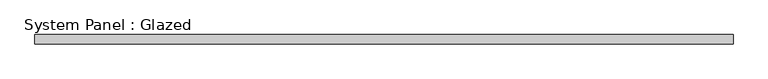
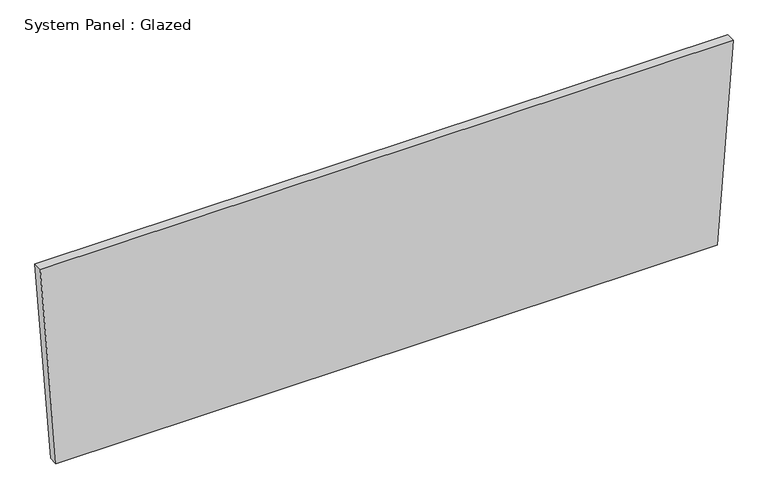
"""IFC4 building model written with IfcOpenShell, lengths in millimetres: plate geometry, System Panel : Glazed."""

from ifc_helpers import new_model, si_unit, frame, origin, place, context, project, spatial, polyline, outline, extrude, source, transform, mapped, element, save


def system_panel_glazed_e73c3b5f(model_context):
    return source(origin(), model_context, "Body", "SweptSolid", [
        extrude(outline(polyline([(0.0, -912.7323068), (0.0, 912.7323068), (582.5097319, 956.201153), (582.5097319, -956.201153), (0.0, -912.7323068)])), frame((0.0, -44.45, 0.0), z_axis=(0.0, 1.0, 0.0), x_axis=(0.0, 0.0, 1.0)), (0.0, 0.0, 1.0), 25.4),
    ])


if __name__ == "__main__":
    model = new_model("IFC4")
    model_context = context("Model", 3, world=origin())
    ifc_project = project(units=[si_unit("LENGTHUNIT", "METRE", prefix="MILLI")], contexts=[model_context])
    site = spatial("IfcSite", under=ifc_project)
    building = spatial("IfcBuilding", under=site)
    placement = place(None, origin())
    system_panel_glazed_shape = system_panel_glazed_e73c3b5f(model_context)
    element("IfcPlate", 1, ObjectType="System Panel : Glazed", at=placement, inside=building, context=model_context, shape_type="MappedRepresentation", body=[
        mapped(system_panel_glazed_shape, transform((0.0, 0.0, 0.0), x_axis=(1.0, 0.0, 0.0), y_axis=(0.0, 1.0, 0.0), z_axis=(0.0, 0.0, 1.0))),
    ])
    save(model, "model.ifc")
